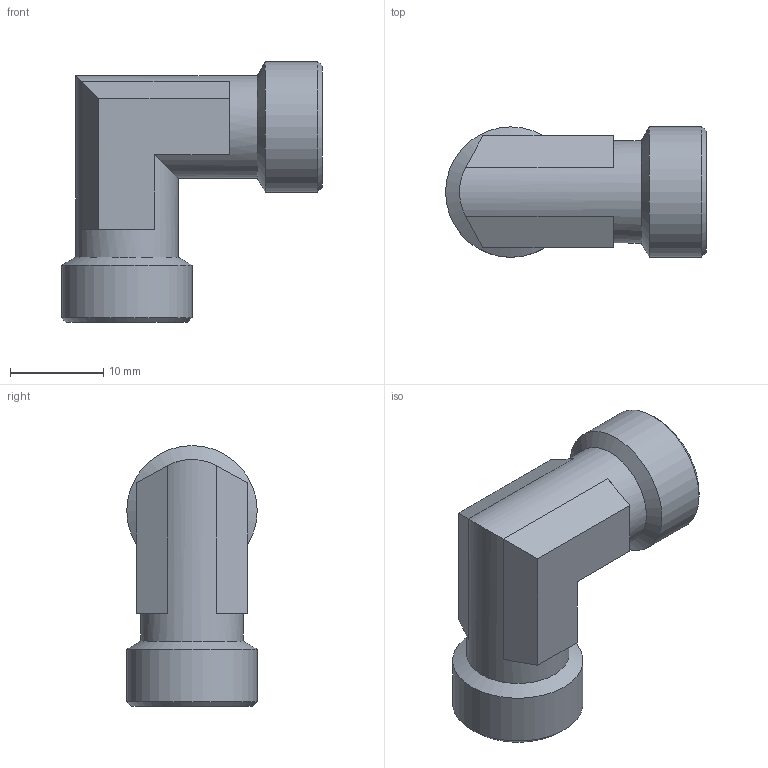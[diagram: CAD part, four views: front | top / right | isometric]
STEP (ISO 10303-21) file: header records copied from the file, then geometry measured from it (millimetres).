
FILE_DESCRIPTION( ( 'Unknown' ), '1' );
FILE_NAME( 'C:/Users/p.nanko/Desktop/3D SR/XW08L.stp', 'Unknown', ( 'Peter Nanko' ), ( 'Armaturen Arndt' ), 'PSStep 14.0', 'Solid Edge ST4', ' ' );
FILE_SCHEMA( ( 'AUTOMOTIVE_DESIGN { 1 0 10303 214 1 1 1 1 }' ) );
Length unit declared in the file: millimetre
Products named in the file (1): 1
Bounding box: 28 x 14 x 28 mm (x, y, z)
Volume: 3353.3 mm3; surface area: 2870 mm2
Topology: 1 solids, 1 shells, 38 faces, 81 edges, 47 vertices
Faces by surface type: plane 20, cylinder 12, cone 6
Full cylindrical faces by diameter (mm): 6 x2, 8 x2, 11 x2, 14 x2
Entity records: 1246 total; most frequent: DIRECTION 176, CARTESIAN_POINT 149, ORIENTED_EDGE 130, AXIS2_PLACEMENT_3D 72, EDGE_CURVE 65, EDGE_LOOP 56, FACE_OUTER_BOUND 46, VERTEX_POINT 45
